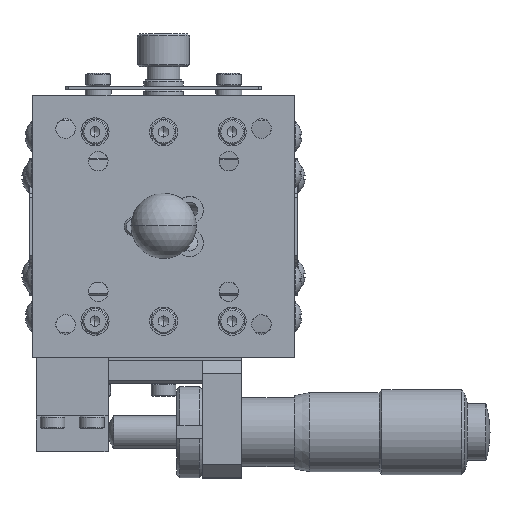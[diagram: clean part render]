
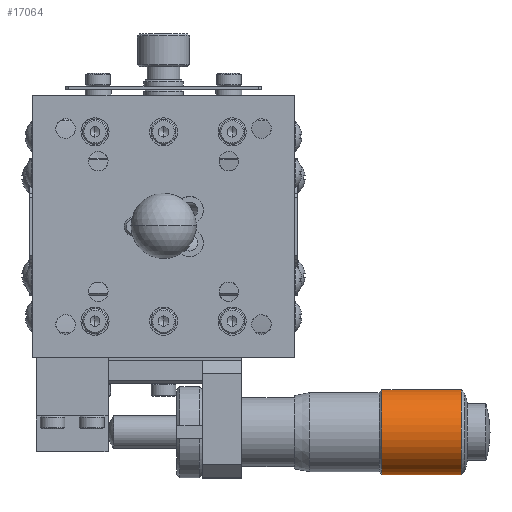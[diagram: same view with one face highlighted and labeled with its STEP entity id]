
A CAD part, top view. The second image highlights one B-rep face of the part: STEP entity #17064.
In plain terms, the highlighted cylindrical face has radius 6.5 mm (diameter 13 mm), a partial arc.
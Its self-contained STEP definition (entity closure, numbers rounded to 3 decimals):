
#17042 = VERTEX_POINT ( 'NONE', #36816 ) ;
#17047 = EDGE_CURVE ( 'NONE', #17042, #17051, #36815, .T. ) ;
#17051 = VERTEX_POINT ( 'NONE', #36804 ) ;
#17064 = ADVANCED_FACE ( 'NONE', ( #36794 ), #36793, .T. ) ;
#17067 = EDGE_LOOP ( 'NONE', ( #17071, #17084, #17141, #17147 ) ) ;
#17071 = ORIENTED_EDGE ( 'NONE', *, *, #17074, .T. ) ;
#17074 = EDGE_CURVE ( 'NONE', #17076, #17078, #36847, .T. ) ;
#17076 = VERTEX_POINT ( 'NONE', #36842 ) ;
#17078 = VERTEX_POINT ( 'NONE', #36841 ) ;
#17084 = ORIENTED_EDGE ( 'NONE', *, *, #17087, .T. ) ;
#17087 = EDGE_CURVE ( 'NONE', #17078, #17051, #36836, .T. ) ;
#17141 = ORIENTED_EDGE ( 'NONE', *, *, #17047, .F. ) ;
#17147 = ORIENTED_EDGE ( 'NONE', *, *, #17148, .F. ) ;
#17148 = EDGE_CURVE ( 'NONE', #17076, #17042, #36905, .T. ) ;
#36786 = DIRECTION ( 'NONE',  ( 0., -1., 0. ) ) ;
#36787 = DIRECTION ( 'NONE',  ( -1., 0., 0. ) ) ;
#36789 = AXIS2_PLACEMENT_3D ( 'NONE', #36792, #36787, #36786 ) ;
#36792 = CARTESIAN_POINT ( 'NONE',  ( -2.616, 0., 0. ) ) ;
#36793 = CYLINDRICAL_SURFACE ( 'NONE', #36789, 6.5 ) ;
#36794 = FACE_OUTER_BOUND ( 'NONE', #17067, .T. ) ;
#36804 = CARTESIAN_POINT ( 'NONE',  ( 41.95, 6.5, 0. ) ) ;
#36811 = DIRECTION ( 'NONE',  ( 0., -1., 0. ) ) ;
#36812 = DIRECTION ( 'NONE',  ( -1., 0., 0. ) ) ;
#36813 = CARTESIAN_POINT ( 'NONE',  ( 41.95, 0., 0. ) ) ;
#36814 = AXIS2_PLACEMENT_3D ( 'NONE', #36813, #36812, #36811 ) ;
#36815 = CIRCLE ( 'NONE', #36814, 6.5 ) ;
#36816 = CARTESIAN_POINT ( 'NONE',  ( 41.95, -6.5, 0. ) ) ;
#36833 = DIRECTION ( 'NONE',  ( -1., 0., 0. ) ) ;
#36834 = VECTOR ( 'NONE', #36833, 1000. ) ;
#36835 = CARTESIAN_POINT ( 'NONE',  ( -2.616, 6.5, 0. ) ) ;
#36836 = LINE ( 'NONE', #36835, #36834 ) ;
#36841 = CARTESIAN_POINT ( 'NONE',  ( 54.125, 6.5, 0. ) ) ;
#36842 = CARTESIAN_POINT ( 'NONE',  ( 54.125, -6.5, 0. ) ) ;
#36843 = DIRECTION ( 'NONE',  ( 0., -1., 0. ) ) ;
#36844 = DIRECTION ( 'NONE',  ( -1., 0., 0. ) ) ;
#36845 = CARTESIAN_POINT ( 'NONE',  ( 54.125, 0., 0. ) ) ;
#36846 = AXIS2_PLACEMENT_3D ( 'NONE', #36845, #36844, #36843 ) ;
#36847 = CIRCLE ( 'NONE', #36846, 6.5 ) ;
#36902 = DIRECTION ( 'NONE',  ( -1., 0., 0. ) ) ;
#36903 = VECTOR ( 'NONE', #36902, 1000. ) ;
#36904 = CARTESIAN_POINT ( 'NONE',  ( -2.616, -6.5, 0. ) ) ;
#36905 = LINE ( 'NONE', #36904, #36903 ) ;
